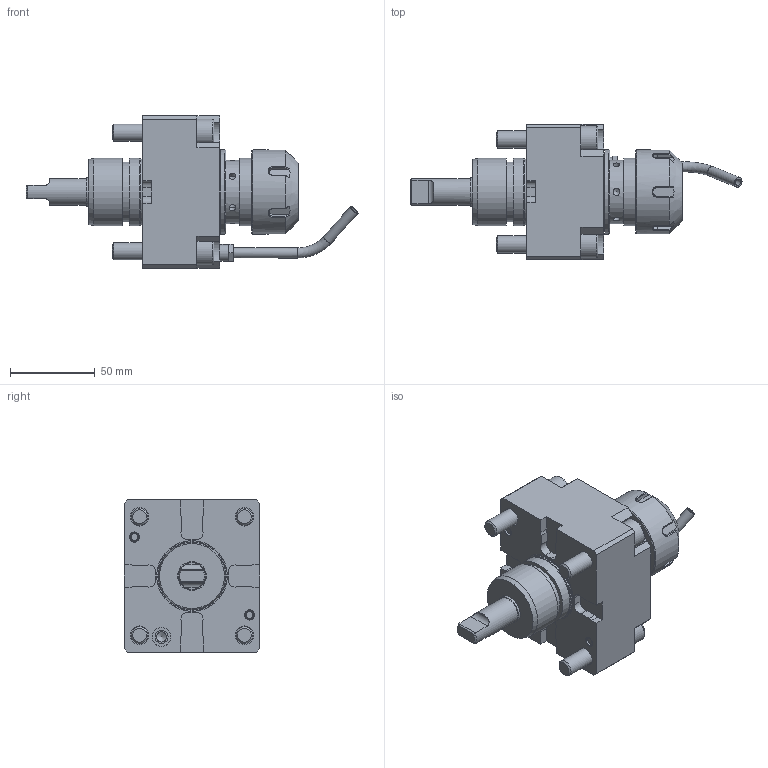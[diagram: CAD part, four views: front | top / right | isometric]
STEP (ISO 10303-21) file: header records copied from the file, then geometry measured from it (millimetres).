
FILE_DESCRIPTION(/* description */ (''),/* implementation_level */ '2;1');
FILE_NAME(/* name */ '196544',/* time_stamp */ '2023-04-20T10:10:03+02:00',/* author */ (''),/* organization */ (''),/* preprocessor_version */ 'ST-DEVELOPER v16.5',/* originating_system */ 'HiCAD 2017 2201.0 Build 268',/* authorisation */ '');
FILE_SCHEMA (('AUTOMOTIVE_DESIGN { 1 0 10303 214 1 1 1 1 }'));
Length unit declared in the file: millimetre
Products named in the file (14): Root; Teil; QRSTUVWXYZ[\]^_`ABCDEFGHIJKLMNOPQRSTUVWXYZ{|}~\X2\20AC0081201A0191
201E20262020202102C62030016020390152008D017D008F009020182019201C201D2022
2013201402DC21220160203A0152009D017D017800A000A100A200A300A400A500A600A7
00A800A900AA00AB00AC00AD00AE00AF00B000B100B200B300B4F5C2FFFD7FFE\X0\; GEWINDE; DIN 13-M40x1,5; DIN 76-M6; DIN 13-M6
Assembly tree (13 placements, depth 3):
  Root
    Teil
      QRSTUVWXYZ[\]^_`ABCDEFGHIJKLMNOPQRSTUVWXYZ{|}~\X2\20AC0081201A0191
201E20262020202102C62030016020390152008D017D008F009020182019201C201D2022
2013201402DC21220160203A0152009D017D017800A000A100A200A300A400A500A600A7
00A800A900AA00AB00AC00AD00AE00AF00B000B100B200B300B4F5C2FFFD7FFE\X0\
      QRSTUVWXYZ[\]^_`ABCDEFGHIJKLMNOPQRSTUVWXYZ{|}~\X2\20AC0081201A0191
201E20262020202102C62030016020390152008D017D008F009020182019201C201D2022
2013201402DC21220160203A0152009D017D017800A000A100A200A300A400A500A600A7
00A800A900AA00AB00AC00AD00AE00AF00B000B100B200B300B4F5C2FFFD7FFE\X0\
      QRSTUVWXYZ[\]^_`ABCDEFGHIJKLMNOPQRSTUVWXYZ{|}~\X2\20AC0081201A0191
201E20262020202102C62030016020390152008D017D008F009020182019201C201D2022
2013201402DC21220160203A0152009D017D017800A000A100A200A300A400A500A600A7
00A800A900AA00AB00AC00AD00AE00AF00B000B100B200B300B4F5C2FFFD7FFE\X0\
      QRSTUVWXYZ[\]^_`ABCDEFGHIJKLMNOPQRSTUVWXYZ{|}~\X2\20AC0081201A0191
201E20262020202102C62030016020390152008D017D008F009020182019201C201D2022
2013201402DC21220160203A0152009D017D017800A000A100A200A300A400A500A600A7
00A800A900AA00AB00AC00AD00AE00AF00B000B100B200B300B4F5C2FFFD7FFE\X0\
      GEWINDE
      GEWINDE
      GEWINDE
      GEWINDE
      DIN 13-M40x1,5
      DIN 76-M6
      DIN 13-M6
      DIN 13-M6
Bounding box: 196.17 x 80 x 90 mm (x, y, z)
Volume: 397889.7 mm3; surface area: 85800.7 mm2
Topology: 16 solids, 16 shells, 392 faces, 1022 edges, 663 vertices
Faces by surface type: plane 189, cylinder 112, cone 52, torus 21, bspline 18
Full cylindrical faces by diameter (mm): 4 x2, 4.1 x6, 4.773 x4, 5 x6, 6 x12, 6.8 x2, 7.65 x1, 8.16 x8, 8.773 x2, 10 x9, 11 x4, 11.01 x1, 11.1 x1, 15.75 x1, 16 x4, 17 x1, 23.5 x1, 24 x1, 27 x1, 35.4 x1, 37.4 x1, 38.5 x1, 39.5 x1, 39.9 x2, 40 x4, 41 x1, 43.8 x1, 49.7 x1, 50 x1
Entity records: 23088 total; most frequent: CARTESIAN_POINT 5478, DIRECTION 1792, PRESENTATION_STYLE_ASSIGNMENT 1732, OVER_RIDING_STYLED_ITEM 1719, COLOUR_RGB 1613, DRAUGHTING_PRE_DEFINED_CURVE_FONT 1608, CURVE_STYLE 1608, ORIENTED_EDGE 1608
